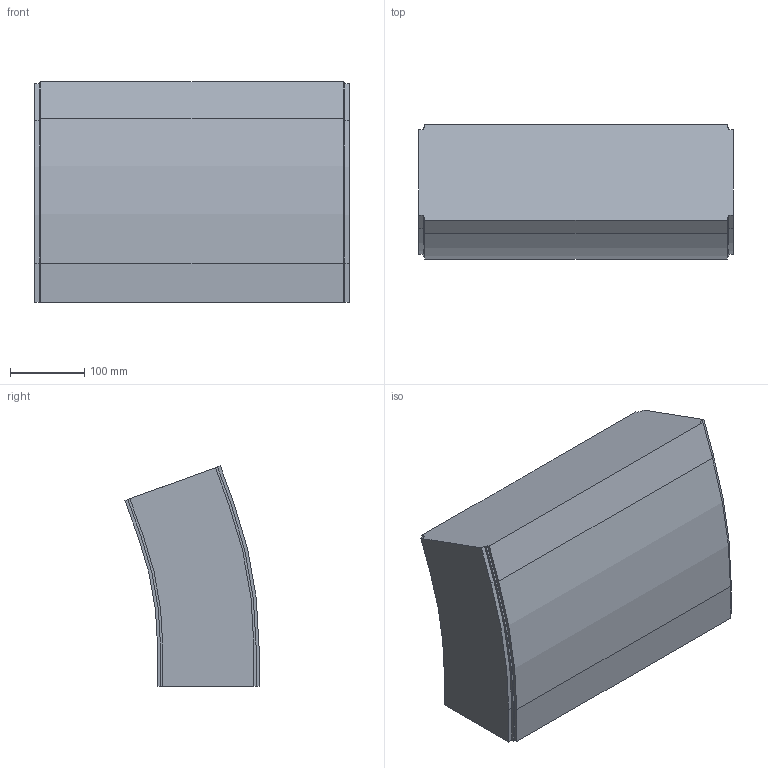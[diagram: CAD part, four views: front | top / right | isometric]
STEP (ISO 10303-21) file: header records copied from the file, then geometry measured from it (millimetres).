
FILE_DESCRIPTION (( 'STEP AP214' ), '1' );
FILE_NAME ('FS-MTC2-150-INOX verticaalbocht.420 20°.STEP', '2017-02-08T12:41:49', ( '' ), ( '' ), 'SwSTEP 2.0', 'SolidWorks 2016', '' );
FILE_SCHEMA (( 'AUTOMOTIVE_DESIGN' ));
Length unit declared in the file: millimetre
Products named in the file (1): FS-MTC2-150-INOX verticaalbocht.420 20°
Bounding box: 423 x 180.49 x 296.19 mm (x, y, z)
Volume: 16082843 mm3; surface area: 427866.7 mm2
Topology: 1 solids, 1 shells, 42 faces, 120 edges, 80 vertices
Faces by surface type: plane 32, cylinder 10
Entity records: 1398 total; most frequent: CARTESIAN_POINT 243, ORIENTED_EDGE 240, DIRECTION 226, EDGE_CURVE 120, VECTOR 100, LINE 100, VERTEX_POINT 80, AXIS2_PLACEMENT_3D 63
